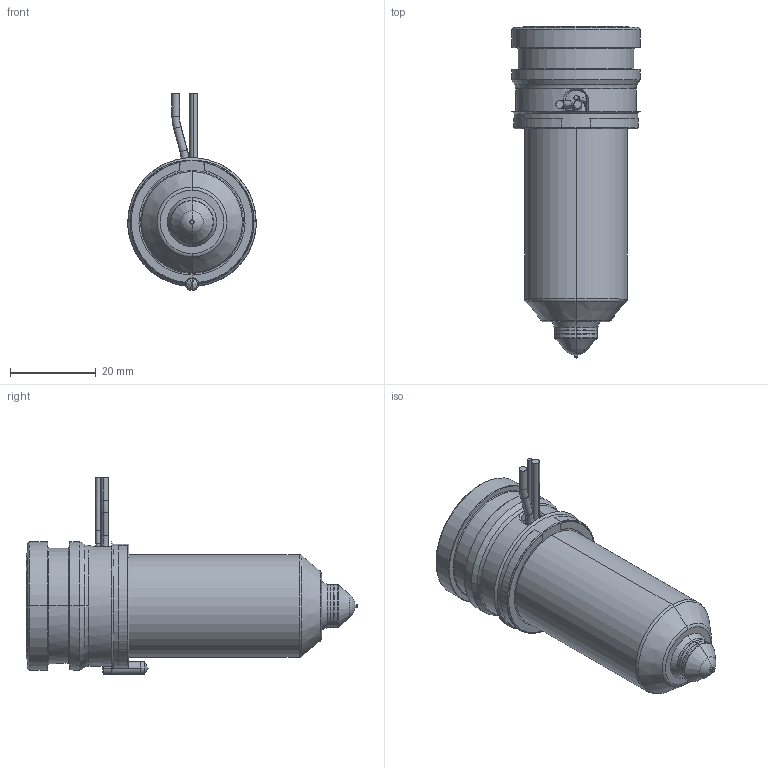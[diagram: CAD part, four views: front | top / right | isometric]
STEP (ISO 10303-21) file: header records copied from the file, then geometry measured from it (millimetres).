
FILE_DESCRIPTION((''),'2;1');
FILE_NAME('MPN-10-29-VX10-056-A','2026-02-05T12:40:11',('UPTIO'),('Thermoplay S.p.A.'),'CREO PARAMETRIC BY PTC INC, 2023494','CREO PARAMETRIC BY PTC INC, 2023494','');
FILE_SCHEMA(('CONFIG_CONTROL_DESIGN','SHAPE_APPEARANCE_LAYERS_GROUPS'));
Length unit declared in the file: millimetre
Products named in the file (1): MPN-10-29-VX10-056-A
Bounding box: 30 x 77.5 x 46 mm (x, y, z)
Volume: 24927.7 mm3; surface area: 24515.5 mm2
Topology: 2 solids, 3 shells, 557 faces, 1459 edges, 901 vertices
Faces by surface type: cylinder 182, plane 144, bspline 76, torus 72, cone 70, sphere 9, extrusion 4
Entity records: 29427 total; most frequent: CARTESIAN_POINT 12920, ORIENTED_EDGE 2906, DIRECTION 2711, EDGE_CURVE 1453, AXIS2_PLACEMENT_3D 1078, VERTEX_POINT 901, CIRCLE 600, EDGE_LOOP 586
